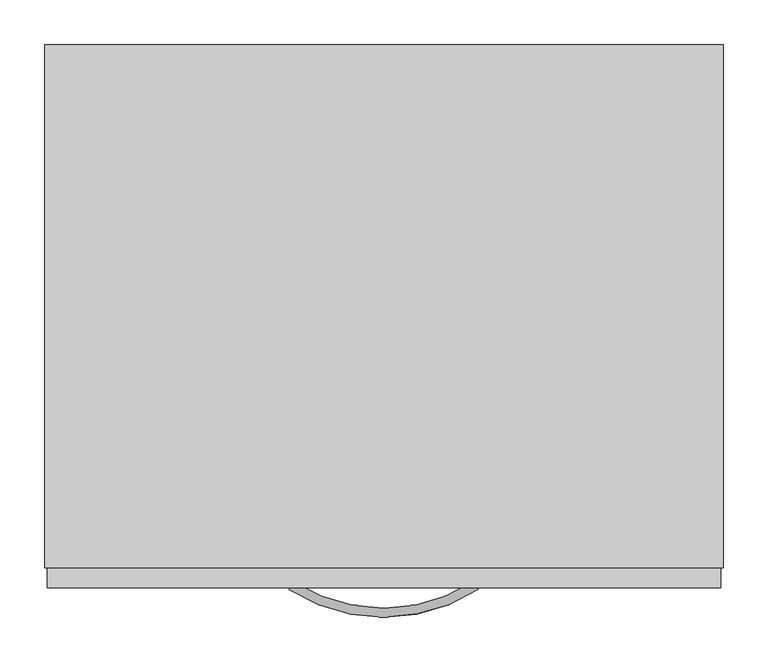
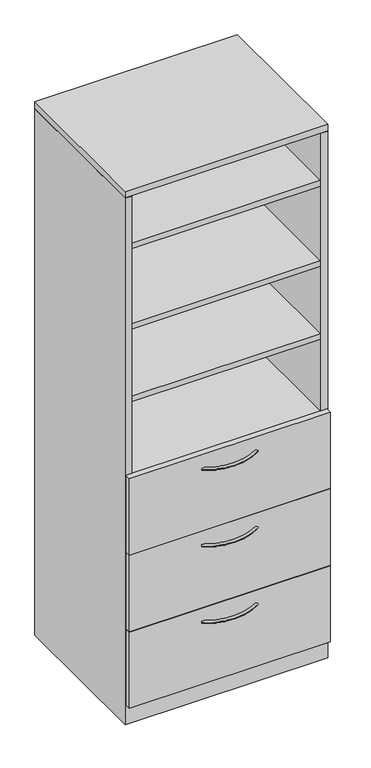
"""IFC4 building model written with IfcOpenShell, lengths in millimetres: furniture geometry, Steelcase - Universal Storage - Cabinet - Combination - Proud Steel : 83 1/2H - Open Cabinet/3 Drawers - 24D x 30W."""

from ifc_helpers import new_model, si_unit, point, frame, origin, place, context, project, spatial, polyline, circle_curve, ellipse_curve, trimmed, outline, extrude, faceted_brep, source, transform, mapped, element, save
from ifc_brep_helpers import plane_surface, revolved_surface, advanced_brep


def furniture_9d9f03c3(model_context):
    return source(origin(), model_context, "Body", "SolidModel", [
        extrude(outline(polyline([(736.6000242, 104.6479992), (736.6000242, -454.0250121), (25.4000008, -454.0250121), (25.4000008, 104.6479992), (736.6000242, 104.6479992)])), frame((0.0, 0.0, 965.2000242), z_axis=(0.0, 0.0, 1.0), x_axis=(1.0, 0.0, 0.0)), (0.0, 0.0, 1.0), 22.2249516),
        extrude(outline(polyline([(736.6000242, 104.6479992), (736.6000242, -454.0250121), (25.4000008, -454.0250121), (25.4000008, 104.6479992), (736.6000242, 104.6479992)])), frame((0.0, 0.0, 1273.1750484), z_axis=(0.0, 0.0, 1.0), x_axis=(1.0, 0.0, 0.0)), (0.0, 0.0, 1.0), 22.2249516),
        extrude(outline(polyline([(736.6000242, 104.6479992), (736.6000242, -454.0250121), (25.4000008, -454.0250121), (25.4000008, 104.6479992), (736.6000242, 104.6479992)])), frame((0.0, 0.0, 1562.7350484), z_axis=(0.0, 0.0, 1.0), x_axis=(1.0, 0.0, 0.0)), (0.0, 0.0, 1.0), 22.2249516),
        extrude(outline(polyline([(736.6000242, 104.6479992), (736.6000242, -454.0250121), (25.4000008, -454.0250121), (25.4000008, 104.6479992), (736.6000242, 104.6479992)])), frame((0.0, 0.0, 1882.7750484), z_axis=(0.0, 0.0, 1.0), x_axis=(1.0, 0.0, 0.0)), (0.0, 0.0, 1.0), 22.2249516),
        advanced_brep(
        [(274.4245932, -481.5705994, 323.56425), (279.8977519, -473.0108019, 323.56425), (486.7315136, -481.1337636, 323.56425), (481.2231767, -472.5965612, 323.56425)],
        [
            (0, 1, circle_curve(frame((277.1611726, -477.2907007, 323.56425), z_axis=(-0.8424997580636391, 0.5386967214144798, 0.0), x_axis=(0.5386967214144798, 0.8424997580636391, 0.0)), 5.08)),
            (1, 0, circle_curve(frame((277.1611726, -477.2907007, 323.56425), z_axis=(-0.8424997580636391, 0.5386967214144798, 0.0), x_axis=(0.5386967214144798, 0.8424997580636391, 0.0)), 5.08)),
            (2, 3, circle_curve(frame((483.9773452, -476.8651624, 323.56425), z_axis=(0.8402758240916, 0.5421591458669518, 0.0), x_axis=(-0.5421591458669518, 0.8402758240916, 0.0)), 5.08)),
            (3, 2, circle_curve(frame((483.9773452, -476.8651624, 323.56425), z_axis=(0.8402758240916, 0.5421591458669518, 0.0), x_axis=(-0.5421591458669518, 0.8402758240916, 0.0)), 5.08)),
            (3, 1, circle_curve(frame((380.2380004, -316.0827352, 323.56425), z_axis=(0.0, 0.0, -1.0), x_axis=(-0.5386967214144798, -0.8424997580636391, 0.0)), 186.2648211)),
            (0, 2, circle_curve(frame((380.2380004, -316.0827352, 323.56425), z_axis=(0.0, 0.0, 1.0), x_axis=(-0.5386967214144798, -0.8424997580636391, 0.0)), 196.4248211)),
        ],
        [
            plane_surface(frame((277.5794521, -476.6365286, 324.358), z_axis=(-0.8424997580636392, 0.5386967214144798, 0.0), x_axis=(0.0, 0.0, 1.0))),
            plane_surface(frame((483.5563772, -476.2127171, 324.358), z_axis=(0.8402758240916, 0.5421591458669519, 0.0), x_axis=(0.0, 0.0, 1.0))),
            revolved_surface(trimmed(ellipse_curve(frame((277.1611726, -477.2907007, 323.56425), z_axis=(-0.8424997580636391, 0.5386967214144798, 0.0), x_axis=(0.5386967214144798, 0.8424997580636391, 0.0)), 5.08, 5.08), [point((274.4245932, -481.5705994, 323.56425))], [point((279.8977519, -473.0108019, 323.56425))], True, "CARTESIAN"), (380.2380004, -316.0827352, 324.358), (0.0, 0.0, 1.0)),
            revolved_surface(trimmed(ellipse_curve(frame((277.1611726, -477.2907007, 323.56425), z_axis=(-0.8424997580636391, 0.5386967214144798, 0.0), x_axis=(0.5386967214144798, 0.8424997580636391, 0.0)), 5.08, 5.08), [point((279.8977519, -473.0108019, 323.56425))], [point((274.4245932, -481.5705994, 323.56425))], True, "CARTESIAN"), (380.2380004, -316.0827352, 324.358), (0.0, 0.0, 1.0)),
        ],
        [
            (0, [[1, 2]]),
            (1, [[3, 4]]),
            (2, [[5, -1, 6, -4]]),
            (3, [[-6, -2, -5, -3]]),
        ],
    ),
        advanced_brep(
        [(274.4245932, -481.5705994, 627.85625), (279.8977519, -473.0108019, 627.85625), (486.7315136, -481.1337636, 627.85625), (481.2231767, -472.5965612, 627.85625)],
        [
            (0, 1, circle_curve(frame((277.1611726, -477.2907007, 627.85625), z_axis=(-0.8424997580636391, 0.5386967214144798, 0.0), x_axis=(0.5386967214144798, 0.8424997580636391, 0.0)), 5.08)),
            (1, 0, circle_curve(frame((277.1611726, -477.2907007, 627.85625), z_axis=(-0.8424997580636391, 0.5386967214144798, 0.0), x_axis=(0.5386967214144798, 0.8424997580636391, 0.0)), 5.08)),
            (2, 3, circle_curve(frame((483.9773452, -476.8651624, 627.85625), z_axis=(0.8402758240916, 0.5421591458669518, 0.0), x_axis=(-0.5421591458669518, 0.8402758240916, 0.0)), 5.08)),
            (3, 2, circle_curve(frame((483.9773452, -476.8651624, 627.85625), z_axis=(0.8402758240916, 0.5421591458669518, 0.0), x_axis=(-0.5421591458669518, 0.8402758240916, 0.0)), 5.08)),
            (3, 1, circle_curve(frame((380.2380004, -316.0827352, 627.85625), z_axis=(0.0, 0.0, -1.0), x_axis=(-0.5386967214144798, -0.8424997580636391, 0.0)), 186.2648211)),
            (0, 2, circle_curve(frame((380.2380004, -316.0827352, 627.85625), z_axis=(0.0, 0.0, 1.0), x_axis=(-0.5386967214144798, -0.8424997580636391, 0.0)), 196.4248211)),
        ],
        [
            plane_surface(frame((277.5794521, -476.6365286, 628.65), z_axis=(-0.8424997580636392, 0.5386967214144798, 0.0), x_axis=(0.0, 0.0, 1.0))),
            plane_surface(frame((483.5563772, -476.2127171, 628.65), z_axis=(0.8402758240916, 0.5421591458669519, 0.0), x_axis=(0.0, 0.0, 1.0))),
            revolved_surface(trimmed(ellipse_curve(frame((277.1611726, -477.2907007, 627.85625), z_axis=(-0.8424997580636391, 0.5386967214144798, 0.0), x_axis=(0.5386967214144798, 0.8424997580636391, 0.0)), 5.08, 5.08), [point((274.4245932, -481.5705994, 627.85625))], [point((279.8977519, -473.0108019, 627.85625))], True, "CARTESIAN"), (380.2380004, -316.0827352, 628.65), (0.0, 0.0, 1.0)),
            revolved_surface(trimmed(ellipse_curve(frame((277.1611726, -477.2907007, 627.85625), z_axis=(-0.8424997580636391, 0.5386967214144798, 0.0), x_axis=(0.5386967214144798, 0.8424997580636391, 0.0)), 5.08, 5.08), [point((279.8977519, -473.0108019, 627.85625))], [point((274.4245932, -481.5705994, 627.85625))], True, "CARTESIAN"), (380.2380004, -316.0827352, 628.65), (0.0, 0.0, 1.0)),
        ],
        [
            (0, [[1, 2]]),
            (1, [[3, 4]]),
            (2, [[5, -1, 6, -4]]),
            (3, [[-6, -2, -5, -3]]),
        ],
    ),
        extrude(outline(polyline([(758.8225413, -479.552), (3.1725353, -479.552), (3.1725353, -457.3261219), (758.8225413, -457.3261219), (758.8225413, -479.552)])), frame((0.0, 0.0, 687.3240349), z_axis=(0.0, 0.0, 1.0), x_axis=(1.0, 0.0, 0.0)), (0.0, 0.0, 1.0), 303.2759651),
        advanced_brep(
        [(274.4245932, -481.5705994, 932.65625), (279.8977519, -473.0108019, 932.65625), (486.7315136, -481.1337636, 932.65625), (481.2231767, -472.5965612, 932.65625)],
        [
            (0, 1, circle_curve(frame((277.1611726, -477.2907007, 932.65625), z_axis=(-0.8424997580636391, 0.5386967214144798, 0.0), x_axis=(0.5386967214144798, 0.8424997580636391, 0.0)), 5.08)),
            (1, 0, circle_curve(frame((277.1611726, -477.2907007, 932.65625), z_axis=(-0.8424997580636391, 0.5386967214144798, 0.0), x_axis=(0.5386967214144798, 0.8424997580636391, 0.0)), 5.08)),
            (2, 3, circle_curve(frame((483.9773452, -476.8651624, 932.65625), z_axis=(0.8402758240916, 0.5421591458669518, 0.0), x_axis=(-0.5421591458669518, 0.8402758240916, 0.0)), 5.08)),
            (3, 2, circle_curve(frame((483.9773452, -476.8651624, 932.65625), z_axis=(0.8402758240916, 0.5421591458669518, 0.0), x_axis=(-0.5421591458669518, 0.8402758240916, 0.0)), 5.08)),
            (3, 1, circle_curve(frame((380.2380004, -316.0827352, 932.65625), z_axis=(0.0, 0.0, -1.0), x_axis=(-0.5386967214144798, -0.8424997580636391, 0.0)), 186.2648211)),
            (0, 2, circle_curve(frame((380.2380004, -316.0827352, 932.65625), z_axis=(0.0, 0.0, 1.0), x_axis=(-0.5386967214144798, -0.8424997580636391, 0.0)), 196.4248211)),
        ],
        [
            plane_surface(frame((277.5794521, -476.6365286, 933.45), z_axis=(-0.8424997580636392, 0.5386967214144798, 0.0), x_axis=(0.0, 0.0, 1.0))),
            plane_surface(frame((483.5563772, -476.2127171, 933.45), z_axis=(0.8402758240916, 0.5421591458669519, 0.0), x_axis=(0.0, 0.0, 1.0))),
            revolved_surface(trimmed(ellipse_curve(frame((277.1611726, -477.2907007, 932.65625), z_axis=(-0.8424997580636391, 0.5386967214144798, 0.0), x_axis=(0.5386967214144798, 0.8424997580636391, 0.0)), 5.08, 5.08), [point((274.4245932, -481.5705994, 932.65625))], [point((279.8977519, -473.0108019, 932.65625))], True, "CARTESIAN"), (380.2380004, -316.0827352, 933.45), (0.0, 0.0, 1.0)),
            revolved_surface(trimmed(ellipse_curve(frame((277.1611726, -477.2907007, 932.65625), z_axis=(-0.8424997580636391, 0.5386967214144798, 0.0), x_axis=(0.5386967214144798, 0.8424997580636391, 0.0)), 5.08, 5.08), [point((279.8977519, -473.0108019, 932.65625))], [point((274.4245932, -481.5705994, 932.65625))], True, "CARTESIAN"), (380.2380004, -316.0827352, 933.45), (0.0, 0.0, 1.0)),
        ],
        [
            (0, [[1, 2]]),
            (1, [[3, 4]]),
            (2, [[5, -1, 6, -4]]),
            (3, [[-6, -2, -5, -3]]),
        ],
    ),
        faceted_brep([(25.4000008, -457.3261219, 76.2), (736.6000242, -457.3261219, 76.2), (736.6000242, 104.6479992, 76.2), (25.4000008, 104.6479992, 76.2), (762.0, 130.048, 0.0), (762.0, -457.3261219, 0.0), (0.0, -457.3261219, 0.0), (0.0, 130.048, 0.0), (0.0, 130.048, 2093.976), (762.0, 130.048, 2093.976), (0.0, -457.3261219, 2093.976), (762.0, -457.3261219, 2093.976), (736.6000242, -457.3261219, 2093.976), (25.4000008, -457.3261219, 2093.976), (736.6000242, 104.6479992, 2093.976), (25.4000008, 104.6479992, 2093.976)], [[[0, 1, 2, 3]], [[4, 5, 6, 7]], [[4, 7, 8, 9]], [[8, 7, 6, 10]], [[10, 6, 5, 11, 12, 1, 0, 13]], [[11, 5, 4, 9]], [[14, 12, 11, 9, 8, 10, 13, 15]], [[12, 14, 2, 1]], [[15, 13, 0, 3]], [[14, 15, 3, 2]]]),
        extrude(outline(polyline([(758.8225413, -479.552), (3.1725353, -479.552), (3.1725353, -457.3261219), (758.8225413, -457.3261219), (758.8225413, -479.552)])), frame((0.0, 0.0, 77.724), z_axis=(0.0, 0.0, 1.0), x_axis=(1.0, 0.0, 0.0)), (0.0, 0.0, 1.0), 303.276),
        extrude(outline(polyline([(758.8225413, -479.552), (3.1725353, -479.552), (3.1725353, -457.3261219), (758.8225413, -457.3261219), (758.8225413, -479.552)])), frame((0.0, 0.0, 382.524), z_axis=(0.0, 0.0, 1.0), x_axis=(1.0, 0.0, 0.0)), (0.0, 0.0, 1.0), 303.276),
        extrude(outline(polyline([(762.0, 130.048), (762.0, -457.3261219), (0.0, -457.3261219), (0.0, 130.048), (762.0, 130.048)])), frame((0.0, 0.0, 2095.4999516), z_axis=(0.0, 0.0, 1.0), x_axis=(1.0, 0.0, 0.0)), (0.0, 0.0, 1.0), 25.4000484),
    ])


if __name__ == "__main__":
    model = new_model("IFC4")
    model_context = context("Model", 3, world=origin())
    ifc_project = project(units=[si_unit("LENGTHUNIT", "METRE", prefix="MILLI")], contexts=[model_context])
    site = spatial("IfcSite", under=ifc_project)
    building = spatial("IfcBuilding", under=site)
    placement = place(None, origin())
    furniture_shape = furniture_9d9f03c3(model_context)
    element("IfcFurniture", 1, ObjectType="Steelcase - Universal Storage - Cabinet - Combination - Proud Steel : 83 1/2H - Open Cabinet/3 Drawers - 24D x 30W", at=placement, inside=building, context=model_context, shape_type="MappedRepresentation", body=[
        mapped(furniture_shape, transform((0.0, 0.0, 0.0), x_axis=(1.0, 0.0, 0.0), y_axis=(0.0, 1.0, 0.0), z_axis=(0.0, 0.0, 1.0))),
    ])
    save(model, "model.ifc")
